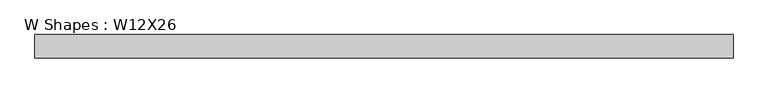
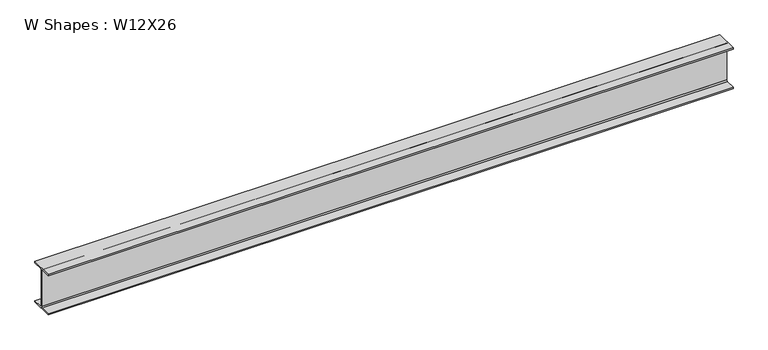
"""IFC4 building model written with IfcOpenShell, lengths in millimetres: beam geometry, W Shapes : W12X26."""

from ifc_helpers import new_model, si_unit, point, frame, frame_2d, origin, place, context, project, spatial, polyline, circle_curve, trimmed, segment, composite_curve, outline, extrude, source, transform, mapped, element, save


def w_shapes_w12x26_969bac88(model_context):
    return source(origin(), model_context, "Body", "SweptSolid", [
        extrude(outline(composite_curve([segment(polyline([(82.423, -145.288), (82.423, -154.94), (-82.423, -154.94), (-82.423, -145.288), (-10.541, -145.288)]), True, "CONTINUOUS"), segment(trimmed(circle_curve(frame_2d((-10.541, -137.668)), 7.62), [point((-10.541, -145.288))], [point((-2.921, -137.668))], True, "CARTESIAN"), True, "CONTINUOUS"), segment(polyline([(-2.921, -137.668), (-2.921, 137.668)]), True, "CONTINUOUS"), segment(trimmed(circle_curve(frame_2d((-10.541, 137.668)), 7.62), [point((-2.921, 137.668))], [point((-10.541, 145.288))], True, "CARTESIAN"), True, "CONTINUOUS"), segment(polyline([(-10.541, 145.288), (-82.423, 145.288), (-82.423, 154.94), (82.423, 154.94), (82.423, 145.288), (10.541, 145.288)]), True, "CONTINUOUS"), segment(trimmed(circle_curve(frame_2d((10.541, 137.668)), 7.62), [point((10.541, 145.288))], [point((2.921, 137.668))], True, "CARTESIAN"), True, "CONTINUOUS"), segment(polyline([(2.921, 137.668), (2.921, -137.668)]), True, "CONTINUOUS"), segment(trimmed(circle_curve(frame_2d((10.541, -137.668)), 7.62), [point((2.921, -137.668))], [point((10.541, -145.288))], True, "CARTESIAN"), True, "CONTINUOUS"), segment(polyline([(10.541, -145.288), (82.423, -145.288)]), True, "CONTINUOUS")], self_intersect=False)), frame((-2477.008, 0.0, 0.0), z_axis=(1.0, 0.0, 0.0), x_axis=(0.0, 1.0, 0.0)), (0.0, 0.0, 1.0), 4954.016),
    ])


if __name__ == "__main__":
    model = new_model("IFC4")
    model_context = context("Model", 3, world=origin())
    ifc_project = project(units=[si_unit("LENGTHUNIT", "METRE", prefix="MILLI")], contexts=[model_context])
    site = spatial("IfcSite", under=ifc_project)
    building = spatial("IfcBuilding", under=site)
    placement = place(None, origin())
    w_shapes_w12x26_shape = w_shapes_w12x26_969bac88(model_context)
    element("IfcBeam", 1, ObjectType="W Shapes : W12X26", at=placement, inside=building, context=model_context, shape_type="MappedRepresentation", body=[
        mapped(w_shapes_w12x26_shape, transform((0.0, 0.0, 0.0), x_axis=(1.0, 0.0, 0.0), y_axis=(0.0, 1.0, 0.0), z_axis=(0.0, 0.0, 1.0))),
    ])
    save(model, "model.ifc")
